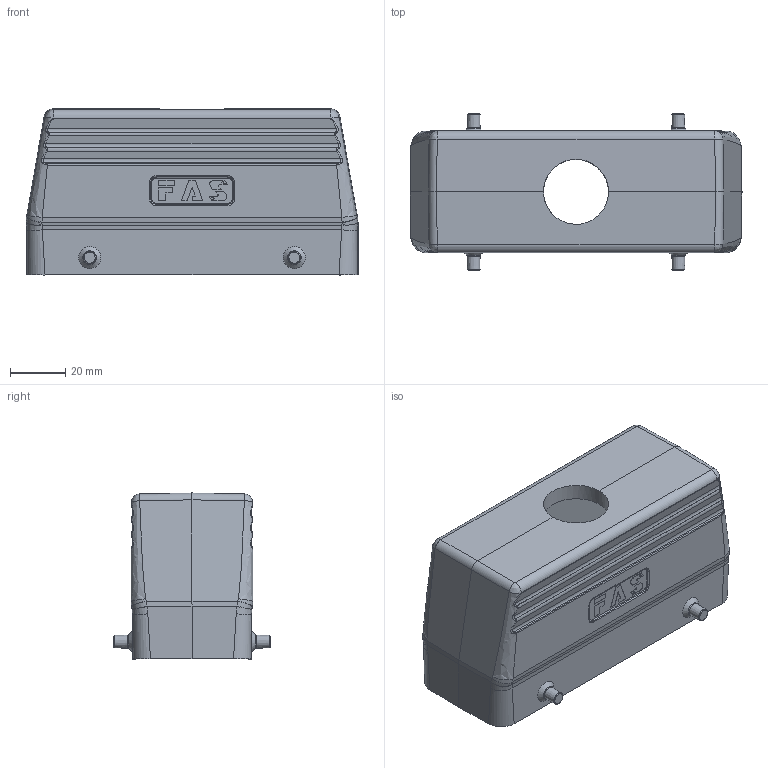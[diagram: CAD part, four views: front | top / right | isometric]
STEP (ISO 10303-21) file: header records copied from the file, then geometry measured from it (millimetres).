
FILE_DESCRIPTION (( 'STEP AP203' ), '1' );
FILE_NAME ('H24B-TG-M25.STEP', '2023-06-13T06:25:57', ( '' ), ( '' ), 'SwSTEP 2.0', 'SolidWorks 2016', '' );
FILE_SCHEMA (( 'CONFIG_CONTROL_DESIGN' ));
Length unit declared in the file: millimetre
Products named in the file (1): H24B-TG-M25
Bounding box: 120 x 56.4 x 60 mm (x, y, z)
Volume: 90276.4 mm3; surface area: 42920.1 mm2
Topology: 1 solids, 1 shells, 479 faces, 1167 edges, 718 vertices
Faces by surface type: plane 168, cylinder 133, bspline 126, cone 24, torus 24, sphere 4
Full cylindrical faces by diameter (mm): 23.5 x1
Entity records: 22000 total; most frequent: CARTESIAN_POINT 12166, ORIENTED_EDGE 2246, DIRECTION 1620, EDGE_CURVE 1123, VERTEX_POINT 707, AXIS2_PLACEMENT_3D 558, EDGE_LOOP 542, VECTOR 504
